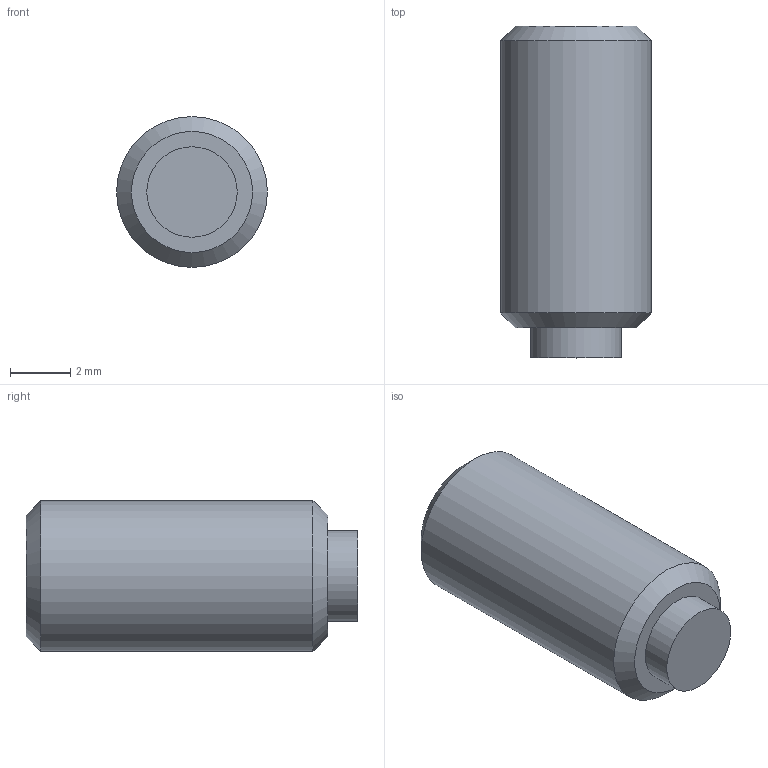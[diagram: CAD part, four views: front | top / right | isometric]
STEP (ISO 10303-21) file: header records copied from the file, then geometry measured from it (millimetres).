
FILE_DESCRIPTION( ( 'STEP AP203' ), '1' );
FILE_NAME( 'C:/Temp/Ganter_Step_05_03_2020/data/3_2/gn913_3/Grub screw GN 913.3-M5-10-KU.stp', '2020-03-13T05:35:34', ( 'License CC BY-ND 4.0' ), ( 'CADENAS' ), ' ', 'PARTsolutions', ' ' );
FILE_SCHEMA( ( 'CONFIG_CONTROL_DESIGN' ) );
Length unit declared in the file: millimetre
Products named in the file (1): _Grub screw GN 913.3-M5-10-KU
Bounding box: 5 x 11 x 5 mm (x, y, z)
Volume: 183.6 mm3; surface area: 222.1 mm2
Topology: 1 solids, 1 shells, 14 faces, 28 edges, 18 vertices
Faces by surface type: plane 10, cylinder 2, cone 2
Full cylindrical faces by diameter (mm): 3 x1, 5 x1
Entity records: 386 total; most frequent: DIRECTION 60, CARTESIAN_POINT 57, ORIENTED_EDGE 48, EDGE_CURVE 24, AXIS2_PLACEMENT_3D 21, EDGE_LOOP 20, VERTEX_POINT 18, LINE 18
